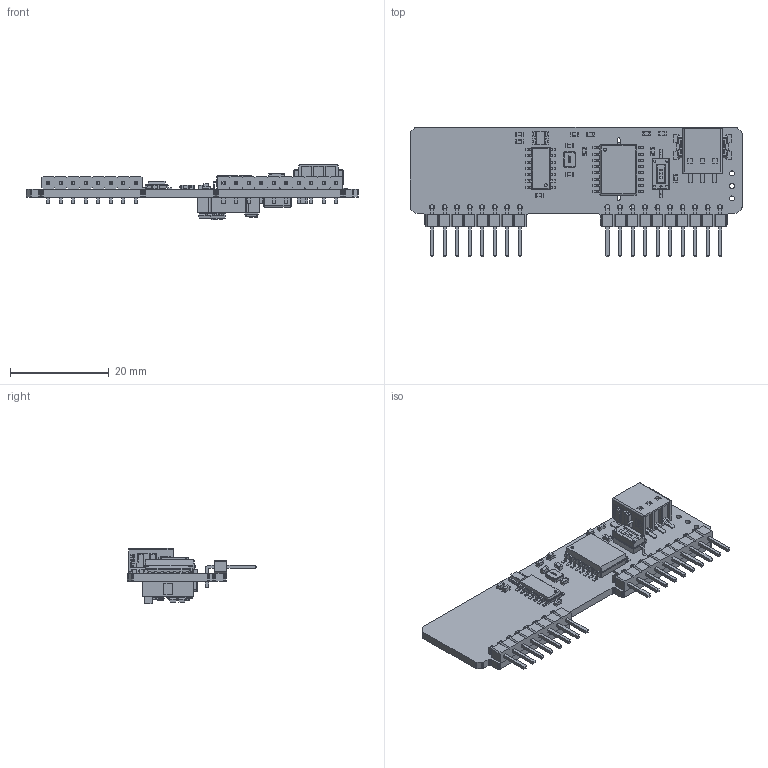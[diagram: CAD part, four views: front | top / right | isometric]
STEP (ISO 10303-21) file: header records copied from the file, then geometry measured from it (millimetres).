
FILE_DESCRIPTION(('KiCad electronic assembly'),'2;1');
FILE_NAME('Flipper_Zero_CAN_Module.step','2023-12-18T09:24:00',('Pcbnew' ),('Kicad'),'Open CASCADE STEP processor 7.6', 'KiCad to STEP converter','Unknown');
FILE_SCHEMA(('AUTOMOTIVE_DESIGN { 1 0 10303 214 1 1 1 1 }'));
Length unit declared in the file: millimetre
Products named in the file (30): Flipper_Zero_CAN_Module 1; PinHeader_1x08_P2.54mm_Horizontal; SOLID; PinHeader_1x10_P2.54mm_Horizontal; L_0603_1608Metric; C_0603_1608Metric; LED_0603_1608Metric; SW_DIP_SPSTx01_Slide_Omron_A6S-110x_W8.9mm_P2.54mm; pxc_1771033_00_00_PTSM-0-5-3-2-5-H-SMD-R44_3D; COMPOUND; SOIC-16W_7.5x10.3mm_P1.27mm; ABM8_Quartz_SMD; SO-14_3.9x8.65mm_P1.27mm; LED_RGB_1210; L_Coilcraft_XAL5020-XXX; C_0805_2012Metric; mps_dcdc_nxe_a; _autosave-Flipper_Zero_CAN_Module PCB
Assembly tree (38 placements, depth 3):
  Flipper_Zero_CAN_Module 1
    PinHeader_1x08_P2.54mm_Horizontal
      SOLID
    PinHeader_1x10_P2.54mm_Horizontal
      SOLID
    L_0603_1608Metric  x5
      SOLID
    C_0603_1608Metric  x5
      SOLID
    LED_0603_1608Metric  x2
      SOLID
    SW_DIP_SPSTx01_Slide_Omron_A6S-110x_W8.9mm_P2.54mm
      SOLID
    pxc_1771033_00_00_PTSM-0-5-3-2-5-H-SMD-R44_3D
      COMPOUND
    SOIC-16W_7.5x10.3mm_P1.27mm
      SOLID
    ABM8_Quartz_SMD
      COMPOUND
    SO-14_3.9x8.65mm_P1.27mm
      COMPOUND
    LED_RGB_1210
      SOLID
    L_Coilcraft_XAL5020-XXX
      COMPOUND
    C_0805_2012Metric
      SOLID
    mps_dcdc_nxe_a
      COMPOUND
    _autosave-Flipper_Zero_CAN_Module PCB
Bounding box: 67.34 x 26.17 x 11.16 mm (x, y, z)
Volume: 3486.7 mm3; surface area: 6578.8 mm2
Topology: 151 solids, 151 shells, 3921 faces, 10025 edges, 6500 vertices
Faces by surface type: plane 3027, cylinder 672, bspline 166, cone 22, extrusion 17, sphere 16, torus 1
Full cylindrical faces by diameter (mm): 0.25 x1, 0.6 x3, 1 x21
Entity records: 249436 total; most frequent: CARTESIAN_POINT 53657, DIRECTION 34516, VECTOR 24776, LINE 24759, ORIENTED_EDGE 18600, PCURVE 18600, DEFINITIONAL_REPRESENTATION 18600, EDGE_CURVE 9300
